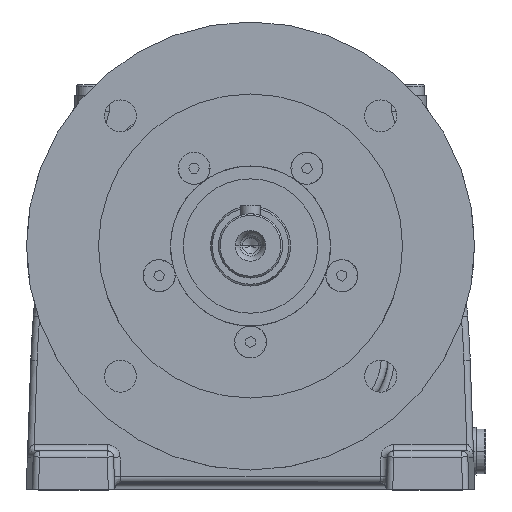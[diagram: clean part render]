
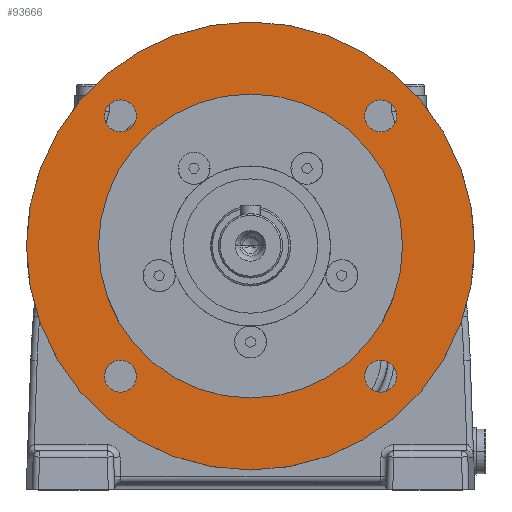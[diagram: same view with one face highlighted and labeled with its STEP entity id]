
A CAD part, top view. The second image highlights one B-rep face of the part: STEP entity #93666.
In plain terms, the highlighted planar face has unit normal (0, 0, 1).
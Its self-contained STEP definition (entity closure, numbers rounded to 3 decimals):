
#71279 = VERTEX_POINT ( 'NONE', #96853 ) ;
#93356 = VERTEX_POINT ( 'NONE', #122383 ) ;
#93412 = EDGE_CURVE ( 'NONE', #93356, #93413, #122475, .T. ) ;
#93413 = VERTEX_POINT ( 'NONE', #122535 ) ;
#93502 = VERTEX_POINT ( 'NONE', #122726 ) ;
#93504 = EDGE_CURVE ( 'NONE', #93505, #93502, #122725, .T. ) ;
#93505 = VERTEX_POINT ( 'NONE', #122720 ) ;
#93507 = EDGE_CURVE ( 'NONE', #93535, #93537, #122719, .T. ) ;
#93518 = VERTEX_POINT ( 'NONE', #122757 ) ;
#93520 = EDGE_CURVE ( 'NONE', #93518, #93521, #122756, .T. ) ;
#93521 = VERTEX_POINT ( 'NONE', #122751 ) ;
#93523 = EDGE_CURVE ( 'NONE', #71279, #93524, #122750, .T. ) ;
#93524 = VERTEX_POINT ( 'NONE', #122745 ) ;
#93535 = VERTEX_POINT ( 'NONE', #122789 ) ;
#93537 = VERTEX_POINT ( 'NONE', #122788 ) ;
#93566 = EDGE_CURVE ( 'NONE', #93567, #93568, #122841, .T. ) ;
#93567 = VERTEX_POINT ( 'NONE', #122837 ) ;
#93568 = VERTEX_POINT ( 'NONE', #122836 ) ;
#93587 = EDGE_LOOP ( 'NONE', ( #93588, #93590 ) ) ;
#93588 = ORIENTED_EDGE ( 'NONE', *, *, #93589, .F. ) ;
#93589 = EDGE_CURVE ( 'NONE', #93413, #93356, #122915, .T. ) ;
#93590 = ORIENTED_EDGE ( 'NONE', *, *, #93412, .F. ) ;
#93591 = EDGE_LOOP ( 'NONE', ( #93592, #93594 ) ) ;
#93592 = ORIENTED_EDGE ( 'NONE', *, *, #93593, .F. ) ;
#93593 = EDGE_CURVE ( 'NONE', #93524, #71279, #122910, .T. ) ;
#93594 = ORIENTED_EDGE ( 'NONE', *, *, #93523, .F. ) ;
#93595 = EDGE_LOOP ( 'NONE', ( #93596, #93652 ) ) ;
#93596 = ORIENTED_EDGE ( 'NONE', *, *, #93597, .F. ) ;
#93597 = EDGE_CURVE ( 'NONE', #93537, #93535, #122905, .T. ) ;
#93652 = ORIENTED_EDGE ( 'NONE', *, *, #93507, .F. ) ;
#93653 = EDGE_LOOP ( 'NONE', ( #93654, #93655 ) ) ;
#93654 = ORIENTED_EDGE ( 'NONE', *, *, #93504, .T. ) ;
#93655 = ORIENTED_EDGE ( 'NONE', *, *, #93656, .T. ) ;
#93656 = EDGE_CURVE ( 'NONE', #93502, #93505, #122996, .T. ) ;
#93657 = EDGE_LOOP ( 'NONE', ( #93658, #93659 ) ) ;
#93658 = ORIENTED_EDGE ( 'NONE', *, *, #93566, .F. ) ;
#93659 = ORIENTED_EDGE ( 'NONE', *, *, #93660, .F. ) ;
#93660 = EDGE_CURVE ( 'NONE', #93568, #93567, #122991, .T. ) ;
#93661 = EDGE_LOOP ( 'NONE', ( #93662, #93664 ) ) ;
#93662 = ORIENTED_EDGE ( 'NONE', *, *, #93663, .F. ) ;
#93663 = EDGE_CURVE ( 'NONE', #93521, #93518, #122986, .T. ) ;
#93664 = ORIENTED_EDGE ( 'NONE', *, *, #93520, .F. ) ;
#93666 = ADVANCED_FACE ( 'NONE', ( #123042, #123041, #123040, #123039, #123038, #123037 ), #123022, .F. ) ;
#96853 = CARTESIAN_POINT ( 'NONE',  ( -45.659, 40.659, -3. ) ) ;
#122383 = CARTESIAN_POINT ( 'NONE',  ( 35.659, 40.659, -3. ) ) ;
#122475 = CIRCLE ( 'NONE', #122539, 5. ) ;
#122535 = CARTESIAN_POINT ( 'NONE',  ( 45.659, 40.659, -3. ) ) ;
#122536 = DIRECTION ( 'NONE',  ( 1., 0., 0. ) ) ;
#122537 = DIRECTION ( 'NONE',  ( 0., 0., 1. ) ) ;
#122538 = CARTESIAN_POINT ( 'NONE',  ( 40.659, 40.659, -3. ) ) ;
#122539 = AXIS2_PLACEMENT_3D ( 'NONE', #122538, #122537, #122536 ) ;
#122715 = DIRECTION ( 'NONE',  ( 1., 0., 0. ) ) ;
#122716 = DIRECTION ( 'NONE',  ( 0., 0., 1. ) ) ;
#122717 = CARTESIAN_POINT ( 'NONE',  ( -40.659, -40.659, -3. ) ) ;
#122718 = AXIS2_PLACEMENT_3D ( 'NONE', #122717, #122716, #122715 ) ;
#122719 = CIRCLE ( 'NONE', #122718, 5. ) ;
#122720 = CARTESIAN_POINT ( 'NONE',  ( 70., 0., -3. ) ) ;
#122721 = DIRECTION ( 'NONE',  ( 1., 0., 0. ) ) ;
#122722 = DIRECTION ( 'NONE',  ( 0., 0., 1. ) ) ;
#122723 = CARTESIAN_POINT ( 'NONE',  ( 0., 0., -3. ) ) ;
#122724 = AXIS2_PLACEMENT_3D ( 'NONE', #122723, #122722, #122721 ) ;
#122725 = CIRCLE ( 'NONE', #122724, 70. ) ;
#122726 = CARTESIAN_POINT ( 'NONE',  ( -70., 0., -3. ) ) ;
#122745 = CARTESIAN_POINT ( 'NONE',  ( -35.659, 40.659, -3. ) ) ;
#122746 = DIRECTION ( 'NONE',  ( 1., 0., 0. ) ) ;
#122747 = DIRECTION ( 'NONE',  ( 0., 0., 1. ) ) ;
#122748 = CARTESIAN_POINT ( 'NONE',  ( -40.659, 40.659, -3. ) ) ;
#122749 = AXIS2_PLACEMENT_3D ( 'NONE', #122748, #122747, #122746 ) ;
#122750 = CIRCLE ( 'NONE', #122749, 5. ) ;
#122751 = CARTESIAN_POINT ( 'NONE',  ( 45.659, -40.659, -3. ) ) ;
#122752 = DIRECTION ( 'NONE',  ( 1., 0., 0. ) ) ;
#122753 = DIRECTION ( 'NONE',  ( 0., 0., 1. ) ) ;
#122754 = CARTESIAN_POINT ( 'NONE',  ( 40.659, -40.659, -3. ) ) ;
#122755 = AXIS2_PLACEMENT_3D ( 'NONE', #122754, #122753, #122752 ) ;
#122756 = CIRCLE ( 'NONE', #122755, 5. ) ;
#122757 = CARTESIAN_POINT ( 'NONE',  ( 35.659, -40.659, -3. ) ) ;
#122788 = CARTESIAN_POINT ( 'NONE',  ( -35.659, -40.659, -3. ) ) ;
#122789 = CARTESIAN_POINT ( 'NONE',  ( -45.659, -40.659, -3. ) ) ;
#122836 = CARTESIAN_POINT ( 'NONE',  ( -47.5, 0., -3. ) ) ;
#122837 = CARTESIAN_POINT ( 'NONE',  ( 47.5, 0., -3. ) ) ;
#122838 = DIRECTION ( 'NONE',  ( 1., 0., 0. ) ) ;
#122839 = DIRECTION ( 'NONE',  ( 0., 0., 1. ) ) ;
#122840 = AXIS2_PLACEMENT_3D ( 'NONE', #122846, #122839, #122838 ) ;
#122841 = CIRCLE ( 'NONE', #122840, 47.5 ) ;
#122846 = CARTESIAN_POINT ( 'NONE',  ( 0., 0., -3. ) ) ;
#122901 = DIRECTION ( 'NONE',  ( 1., 0., 0. ) ) ;
#122902 = DIRECTION ( 'NONE',  ( 0., 0., 1. ) ) ;
#122903 = CARTESIAN_POINT ( 'NONE',  ( -40.659, -40.659, -3. ) ) ;
#122904 = AXIS2_PLACEMENT_3D ( 'NONE', #122903, #122902, #122901 ) ;
#122905 = CIRCLE ( 'NONE', #122904, 5. ) ;
#122906 = DIRECTION ( 'NONE',  ( 1., 0., 0. ) ) ;
#122907 = DIRECTION ( 'NONE',  ( 0., 0., 1. ) ) ;
#122908 = CARTESIAN_POINT ( 'NONE',  ( -40.659, 40.659, -3. ) ) ;
#122909 = AXIS2_PLACEMENT_3D ( 'NONE', #122908, #122907, #122906 ) ;
#122910 = CIRCLE ( 'NONE', #122909, 5. ) ;
#122911 = DIRECTION ( 'NONE',  ( 1., 0., 0. ) ) ;
#122912 = DIRECTION ( 'NONE',  ( 0., 0., 1. ) ) ;
#122913 = CARTESIAN_POINT ( 'NONE',  ( 40.659, 40.659, -3. ) ) ;
#122914 = AXIS2_PLACEMENT_3D ( 'NONE', #122913, #122912, #122911 ) ;
#122915 = CIRCLE ( 'NONE', #122914, 5. ) ;
#122982 = DIRECTION ( 'NONE',  ( 1., 0., 0. ) ) ;
#122983 = DIRECTION ( 'NONE',  ( 0., 0., 1. ) ) ;
#122984 = CARTESIAN_POINT ( 'NONE',  ( 40.659, -40.659, -3. ) ) ;
#122985 = AXIS2_PLACEMENT_3D ( 'NONE', #122984, #122983, #122982 ) ;
#122986 = CIRCLE ( 'NONE', #122985, 5. ) ;
#122987 = DIRECTION ( 'NONE',  ( 1., 0., 0. ) ) ;
#122988 = DIRECTION ( 'NONE',  ( 0., 0., 1. ) ) ;
#122989 = CARTESIAN_POINT ( 'NONE',  ( 0., 0., -3. ) ) ;
#122990 = AXIS2_PLACEMENT_3D ( 'NONE', #122989, #122988, #122987 ) ;
#122991 = CIRCLE ( 'NONE', #122990, 47.5 ) ;
#122992 = DIRECTION ( 'NONE',  ( 1., 0., 0. ) ) ;
#122993 = DIRECTION ( 'NONE',  ( 0., 0., 1. ) ) ;
#122994 = CARTESIAN_POINT ( 'NONE',  ( 0., 0., -3. ) ) ;
#122995 = AXIS2_PLACEMENT_3D ( 'NONE', #122994, #122993, #122992 ) ;
#122996 = CIRCLE ( 'NONE', #122995, 70. ) ;
#123018 = DIRECTION ( 'NONE',  ( -1., 0., 0. ) ) ;
#123019 = DIRECTION ( 'NONE',  ( 0., 0., -1. ) ) ;
#123020 = CARTESIAN_POINT ( 'NONE',  ( 0., 47.5, -3. ) ) ;
#123021 = AXIS2_PLACEMENT_3D ( 'NONE', #123020, #123019, #123018 ) ;
#123022 = PLANE ( 'NONE',  #123021 ) ;
#123037 = FACE_BOUND ( 'NONE', #93661, .T. ) ;
#123038 = FACE_BOUND ( 'NONE', #93657, .T. ) ;
#123039 = FACE_OUTER_BOUND ( 'NONE', #93653, .T. ) ;
#123040 = FACE_BOUND ( 'NONE', #93595, .T. ) ;
#123041 = FACE_BOUND ( 'NONE', #93591, .T. ) ;
#123042 = FACE_BOUND ( 'NONE', #93587, .T. ) ;
